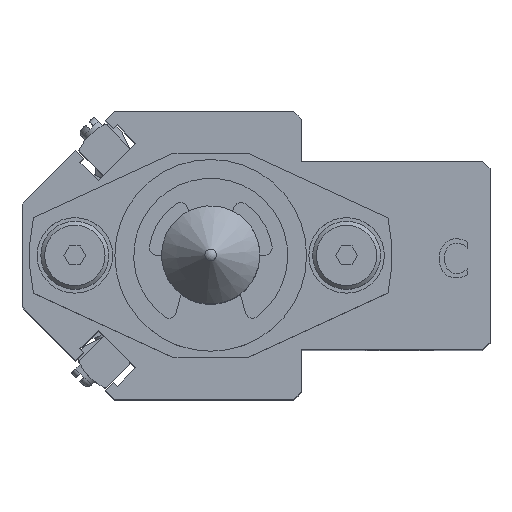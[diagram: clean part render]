
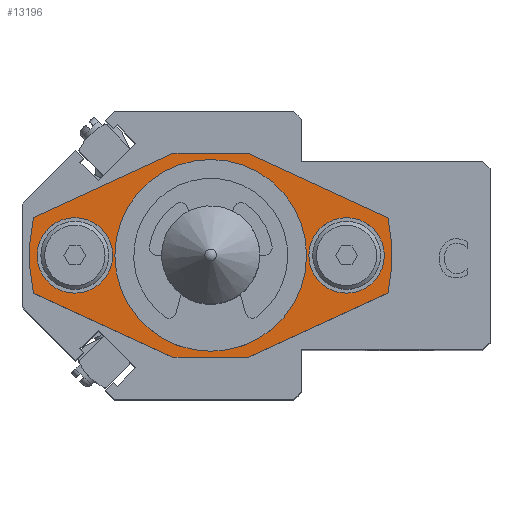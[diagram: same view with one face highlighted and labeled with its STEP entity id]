
A CAD part, top view. The second image highlights one B-rep face of the part: STEP entity #13196.
In plain terms, the highlighted planar face has unit normal (0, 0, 1).
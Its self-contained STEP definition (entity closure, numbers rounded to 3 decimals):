
#375=FACE_BOUND('',#4802,.T.);
#376=FACE_BOUND('',#4803,.T.);
#377=FACE_BOUND('',#4804,.T.);
#1553=LINE('',#21620,#2929);
#1560=LINE('',#21637,#2936);
#1561=LINE('',#21640,#2937);
#1562=LINE('',#21641,#2938);
#1563=LINE('',#21643,#2939);
#1564=LINE('',#21644,#2940);
#2929=VECTOR('',#17564,10.);
#2936=VECTOR('',#17579,10.);
#2937=VECTOR('',#17582,10.);
#2938=VECTOR('',#17583,10.);
#2939=VECTOR('',#17584,10.);
#2940=VECTOR('',#17585,10.);
#3405=CIRCLE('',#14466,10.5);
#3406=CIRCLE('',#14467,10.5);
#3413=CIRCLE('',#14478,24.);
#3415=CIRCLE('',#14481,24.);
#3418=CIRCLE('',#14488,5.);
#3419=CIRCLE('',#14489,5.);
#3420=CIRCLE('',#14490,5.);
#3421=CIRCLE('',#14491,5.);
#4102=FACE_OUTER_BOUND('',#4801,.T.);
#4801=EDGE_LOOP('',(#11078,#11079,#11080,#11081,#11082,#11083,#11084,#11085));
#4802=EDGE_LOOP('',(#11086,#11087));
#4803=EDGE_LOOP('',(#11088,#11089));
#4804=EDGE_LOOP('',(#11090,#11091));
#6001=VERTEX_POINT('',#21578);
#6002=VERTEX_POINT('',#21580);
#6010=VERTEX_POINT('',#21601);
#6011=VERTEX_POINT('',#21603);
#6014=VERTEX_POINT('',#21610);
#6015=VERTEX_POINT('',#21612);
#6017=VERTEX_POINT('',#21618);
#6023=VERTEX_POINT('',#21635);
#6024=VERTEX_POINT('',#21639);
#6025=VERTEX_POINT('',#21642);
#6026=VERTEX_POINT('',#21645);
#6027=VERTEX_POINT('',#21646);
#6028=VERTEX_POINT('',#21649);
#6029=VERTEX_POINT('',#21650);
#7748=EDGE_CURVE('',#6002,#6001,#3405,.T.);
#7749=EDGE_CURVE('',#6001,#6002,#3406,.T.);
#7758=EDGE_CURVE('',#6011,#6010,#3413,.T.);
#7762=EDGE_CURVE('',#6015,#6014,#3415,.T.);
#7766=EDGE_CURVE('',#6010,#6017,#1553,.T.);
#7775=EDGE_CURVE('',#6014,#6023,#1560,.T.);
#7776=EDGE_CURVE('',#6017,#6024,#1561,.T.);
#7777=EDGE_CURVE('',#6024,#6015,#1562,.T.);
#7778=EDGE_CURVE('',#6023,#6025,#1563,.T.);
#7779=EDGE_CURVE('',#6025,#6011,#1564,.T.);
#7780=EDGE_CURVE('',#6026,#6027,#3418,.T.);
#7781=EDGE_CURVE('',#6027,#6026,#3419,.T.);
#7782=EDGE_CURVE('',#6028,#6029,#3420,.T.);
#7783=EDGE_CURVE('',#6029,#6028,#3421,.T.);
#11078=ORIENTED_EDGE('',*,*,#7758,.T.);
#11079=ORIENTED_EDGE('',*,*,#7766,.T.);
#11080=ORIENTED_EDGE('',*,*,#7776,.T.);
#11081=ORIENTED_EDGE('',*,*,#7777,.T.);
#11082=ORIENTED_EDGE('',*,*,#7762,.T.);
#11083=ORIENTED_EDGE('',*,*,#7775,.T.);
#11084=ORIENTED_EDGE('',*,*,#7778,.T.);
#11085=ORIENTED_EDGE('',*,*,#7779,.T.);
#11086=ORIENTED_EDGE('',*,*,#7748,.T.);
#11087=ORIENTED_EDGE('',*,*,#7749,.T.);
#11088=ORIENTED_EDGE('',*,*,#7780,.T.);
#11089=ORIENTED_EDGE('',*,*,#7781,.T.);
#11090=ORIENTED_EDGE('',*,*,#7782,.T.);
#11091=ORIENTED_EDGE('',*,*,#7783,.T.);
#12401=PLANE('',#14487);
#13196=ADVANCED_FACE('',(#4102,#375,#376,#377),#12401,.T.);
#14466=AXIS2_PLACEMENT_3D('',#21581,#17523,#17524);
#14467=AXIS2_PLACEMENT_3D('',#21582,#17525,#17526);
#14478=AXIS2_PLACEMENT_3D('',#21604,#17549,#17550);
#14481=AXIS2_PLACEMENT_3D('',#21613,#17557,#17558);
#14487=AXIS2_PLACEMENT_3D('',#21638,#17580,#17581);
#14488=AXIS2_PLACEMENT_3D('',#21647,#17586,#17587);
#14489=AXIS2_PLACEMENT_3D('',#21648,#17588,#17589);
#14490=AXIS2_PLACEMENT_3D('',#21651,#17590,#17591);
#14491=AXIS2_PLACEMENT_3D('',#21652,#17592,#17593);
#17523=DIRECTION('center_axis',(0.,0.,-1.));
#17524=DIRECTION('ref_axis',(1.,0.,0.));
#17525=DIRECTION('center_axis',(0.,0.,-1.));
#17526=DIRECTION('ref_axis',(1.,0.,0.));
#17549=DIRECTION('center_axis',(0.,0.,1.));
#17550=DIRECTION('ref_axis',(0.978,-0.208,0.));
#17557=DIRECTION('center_axis',(0.,0.,1.));
#17558=DIRECTION('ref_axis',(-0.978,0.208,0.));
#17564=DIRECTION('',(0.908,-0.418,0.));
#17579=DIRECTION('',(-0.908,0.418,0.));
#17580=DIRECTION('center_axis',(0.,0.,1.));
#17581=DIRECTION('ref_axis',(1.,0.,0.));
#17582=DIRECTION('',(1.,0.,0.));
#17583=DIRECTION('',(0.908,0.418,0.));
#17584=DIRECTION('',(-1.,0.,0.));
#17585=DIRECTION('',(-0.908,-0.418,0.));
#17586=DIRECTION('center_axis',(0.,0.,-1.));
#17587=DIRECTION('ref_axis',(1.,0.,0.));
#17588=DIRECTION('center_axis',(0.,0.,-1.));
#17589=DIRECTION('ref_axis',(1.,0.,0.));
#17590=DIRECTION('center_axis',(0.,0.,-1.));
#17591=DIRECTION('ref_axis',(1.,0.,0.));
#17592=DIRECTION('center_axis',(0.,0.,-1.));
#17593=DIRECTION('ref_axis',(1.,0.,0.));
#21578=CARTESIAN_POINT('',(-10.5,0.,6.));
#21580=CARTESIAN_POINT('',(10.5,0.,6.));
#21581=CARTESIAN_POINT('Origin',(0.,0.,6.));
#21582=CARTESIAN_POINT('Origin',(0.,0.,6.));
#21601=CARTESIAN_POINT('',(-23.473,-5.001,6.));
#21603=CARTESIAN_POINT('',(-23.473,5.001,6.));
#21604=CARTESIAN_POINT('Origin',(0.,0.,6.));
#21610=CARTESIAN_POINT('',(23.473,5.001,6.));
#21612=CARTESIAN_POINT('',(23.473,-5.001,6.));
#21613=CARTESIAN_POINT('Origin',(0.,0.,6.));
#21618=CARTESIAN_POINT('',(-5.,-13.5,6.));
#21620=CARTESIAN_POINT('',(-15.7,-8.578,6.));
#21635=CARTESIAN_POINT('',(5.,13.5,6.));
#21637=CARTESIAN_POINT('',(15.7,8.578,6.));
#21638=CARTESIAN_POINT('Origin',(0.,0.,6.));
#21639=CARTESIAN_POINT('',(5.,-13.5,6.));
#21640=CARTESIAN_POINT('',(25.4,-13.5,6.));
#21641=CARTESIAN_POINT('',(15.7,-8.578,6.));
#21642=CARTESIAN_POINT('',(-5.,13.5,6.));
#21643=CARTESIAN_POINT('',(-25.4,13.5,6.));
#21644=CARTESIAN_POINT('',(-15.7,8.578,6.));
#21645=CARTESIAN_POINT('',(-13.,0.,6.));
#21646=CARTESIAN_POINT('',(-23.,0.,6.));
#21647=CARTESIAN_POINT('Origin',(-18.,0.,6.));
#21648=CARTESIAN_POINT('Origin',(-18.,0.,6.));
#21649=CARTESIAN_POINT('',(23.,0.,6.));
#21650=CARTESIAN_POINT('',(13.,0.,6.));
#21651=CARTESIAN_POINT('Origin',(18.,0.,6.));
#21652=CARTESIAN_POINT('Origin',(18.,0.,6.));
